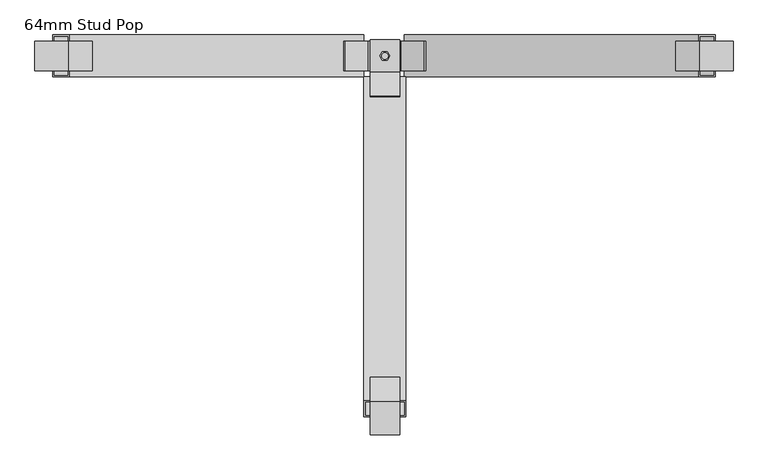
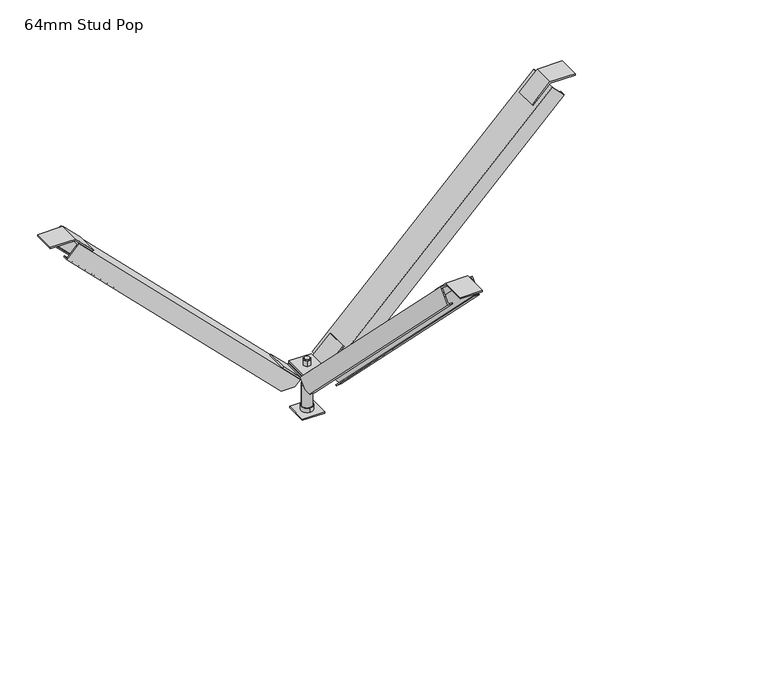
"""IFC4 building model written with IfcOpenShell, lengths in millimetres: beam geometry, Vertibrace 3-way Brace : 64mm Stud Pop."""

from ifc_helpers import new_model, si_unit, frame, origin, origin_with_axes, place, context, project, spatial, polyline, circle_curve, outline, extrude, faceted_brep, source, transform, mapped, element, save
from ifc_brep_helpers import plane_surface, cylinder_surface, advanced_brep


def beam_64mm_stud_pop_63f9fb21(model_context):
    return source(origin(), model_context, "Body", "SolidModel", [
        extrude(outline(polyline([(-527.535654, 597.0013294), (-577.5201232, 597.0013294), (-577.5201232, 600.0), (-526.293564, 600.0), (-490.0709166, 563.7773526), (-492.1912969, 561.6569723), (-527.535654, 597.0013294)])), frame((-22.5, 0.0, 0.0), z_axis=(1.0, 0.0, 0.0), x_axis=(0.0, 1.0, 0.0)), (0.0, 0.0, 1.0), 45.0),
        extrude(outline(polyline([(547.0013294, 480.8434194), (547.0013294, 530.8278886), (550.0, 530.8278886), (550.0, 479.6013294), (513.7773526, 443.378682), (511.6569723, 445.4990623), (547.0013294, 480.8434194)])), frame((0.0, -22.5, 0.0), z_axis=(0.0, 1.0, 0.0), x_axis=(0.0, 0.0, 1.0)), (0.0, 0.0, 1.0), 45.0),
        extrude(outline(polyline([(547.0013294, -483.535654), (511.6569723, -448.1912969), (513.7773526, -446.0709166), (550.0, -482.293564), (550.0, -533.5201232), (547.0013294, -533.5201232), (547.0013294, -483.535654)])), frame((0.0, -22.5, 0.0), z_axis=(0.0, 1.0, 0.0), x_axis=(0.0, 0.0, 1.0)), (0.0, 0.0, 1.0), 45.0),
        extrude(outline(polyline([(-24.9922346, 98.6986706), (24.9922346, 98.6986706), (24.9922346, 95.7), (-26.2343246, 95.7), (-62.456972, 131.9226474), (-60.3365917, 134.0430277), (-24.9922346, 98.6986706)])), frame((-22.5, 0.0, 0.0), z_axis=(1.0, 0.0, 0.0), x_axis=(0.0, 1.0, 0.0)), (0.0, 0.0, 1.0), 45.0),
        extrude(outline(polyline([(95.6986706, 24.9922346), (95.6986706, -24.9922346), (92.7, -24.9922346), (92.7, 26.2343246), (128.9226474, 62.456972), (131.0430277, 60.3365917), (95.6986706, 24.9922346)])), frame((0.0, -22.5, 0.0), z_axis=(0.0, 1.0, 0.0), x_axis=(0.0, 0.0, 1.0)), (0.0, 0.0, 1.0), 45.0),
        extrude(outline(polyline([(92.6986706, -24.9922346), (128.0430277, -60.3365917), (125.9226474, -62.456972), (89.7, -26.2343246), (89.7, 24.9922346), (92.6986706, 24.9922346), (92.6986706, -24.9922346)])), frame((0.0, -22.5, 0.0), z_axis=(0.0, 1.0, 0.0), x_axis=(0.0, 0.0, 1.0)), (0.0, 0.0, 1.0), 45.0),
        extrude(outline(polyline([(22.5, 22.5), (22.5, -22.5), (-22.5, -22.5), (-22.5, 22.5), (22.5, 22.5)])), origin_with_axes(), (0.0, 0.0, 1.0), 3.0),
        advanced_brep(
        [(-5.0, 0.0, 0.0), (5.0, 0.0, 0.0), (-5.0, 0.0, 113.0), (5.0, 0.0, 113.0), (5.0, 0.0, 3.0), (-5.0, 0.0, 3.0), (-5.0, 0.0, 110.4), (5.0, 0.0, 110.4), (-5.0, 0.0, 58.0), (5.0, 0.0, 58.0), (5.0, 0.0, 83.0), (-5.0, 0.0, 83.0), (5.0, 0.0, 98.7), (-5.0, 0.0, 98.7), (-5.0, 0.0, 89.7), (5.0, 0.0, 89.7), (-10.5, 0.0, 58.0), (10.5, 0.0, 58.0), (-10.5, 0.0, 13.0), (10.5, 0.0, 13.0), (0.0, -12.0, 13.0), (0.0, 12.0, 13.0), (3.75, 6.4951905, 110.4), (-3.75, 6.4951905, 110.4), (-7.5, 0.0, 110.4), (-3.75, -6.4951905, 110.4), (3.75, -6.4951905, 110.4), (7.5, 0.0, 110.4), (3.75, 6.4951905, 98.7), (7.5, 0.0, 98.7), (3.75, -6.4951905, 98.7), (-3.75, -6.4951905, 98.7), (-7.5, 0.0, 98.7), (-3.75, 6.4951905, 98.7), (-10.9696551, 0.0, 89.7), (-5.4848276, -9.5, 89.7), (5.4848276, -9.5, 89.7), (10.9696551, 0.0, 89.7), (5.4848276, 9.5, 89.7), (-5.4848276, 9.5, 89.7), (-10.9696551, 0.0, 83.0), (-5.4848276, 9.5, 83.0), (5.4848276, 9.5, 83.0), (10.9696551, 0.0, 83.0), (5.4848276, -9.5, 83.0), (-5.4848276, -9.5, 83.0), (0.0, -12.0, 3.0), (0.0, 12.0, 3.0)],
        [
            (0, 1, circle_curve(frame((0.0, 0.0, 0.0), z_axis=(0.0, 0.0, -1.0), x_axis=(1.0, 0.0, 0.0)), 5.0)),
            (1, 0, circle_curve(frame((0.0, 0.0, 0.0), z_axis=(0.0, 0.0, -1.0), x_axis=(1.0, 0.0, 0.0)), 5.0)),
            (2, 3, circle_curve(frame((0.0, 0.0, 113.0), z_axis=(0.0, 0.0, 1.0), x_axis=(1.0, 0.0, 0.0)), 5.0)),
            (3, 2, circle_curve(frame((0.0, 0.0, 113.0), z_axis=(0.0, 0.0, 1.0), x_axis=(1.0, 0.0, 0.0)), 5.0)),
            (1, 4),
            (4, 5, circle_curve(frame((0.0, 0.0, 3.0), z_axis=(0.0, 0.0, -1.0), x_axis=(1.0, 0.0, 0.0)), 5.0)),
            (5, 0),
            (2, 6),
            (6, 7, circle_curve(frame((0.0, 0.0, 110.4), z_axis=(0.0, 0.0, 1.0), x_axis=(1.0, 0.0, 0.0)), 5.0)),
            (7, 3),
            (8, 9, circle_curve(frame((0.0, 0.0, 58.0), z_axis=(0.0, 0.0, 1.0), x_axis=(1.0, 0.0, 0.0)), 5.0)),
            (9, 10),
            (10, 11, circle_curve(frame((0.0, 0.0, 83.0), z_axis=(0.0, 0.0, -1.0), x_axis=(1.0, 0.0, 0.0)), 5.0)),
            (11, 8),
            (12, 13, circle_curve(frame((0.0, 0.0, 98.7), z_axis=(0.0, 0.0, -1.0), x_axis=(1.0, 0.0, 0.0)), 5.0)),
            (13, 14),
            (14, 15, circle_curve(frame((0.0, 0.0, 89.7), z_axis=(0.0, 0.0, 1.0), x_axis=(1.0, 0.0, 0.0)), 5.0)),
            (15, 12),
            (5, 4, circle_curve(frame((0.0, 0.0, 3.0), z_axis=(0.0, 0.0, -1.0), x_axis=(1.0, 0.0, 0.0)), 5.0)),
            (7, 6, circle_curve(frame((0.0, 0.0, 110.4), z_axis=(0.0, 0.0, 1.0), x_axis=(1.0, 0.0, 0.0)), 5.0)),
            (9, 8, circle_curve(frame((0.0, 0.0, 58.0), z_axis=(0.0, 0.0, 1.0), x_axis=(1.0, 0.0, 0.0)), 5.0)),
            (11, 10, circle_curve(frame((0.0, 0.0, 83.0), z_axis=(0.0, 0.0, -1.0), x_axis=(1.0, 0.0, 0.0)), 5.0)),
            (13, 12, circle_curve(frame((0.0, 0.0, 98.7), z_axis=(0.0, 0.0, -1.0), x_axis=(1.0, 0.0, 0.0)), 5.0)),
            (15, 14, circle_curve(frame((0.0, 0.0, 89.7), z_axis=(0.0, 0.0, 1.0), x_axis=(1.0, 0.0, 0.0)), 5.0)),
            (16, 17, circle_curve(frame((0.0, 0.0, 58.0), z_axis=(0.0, 0.0, 1.0), x_axis=(1.0, 0.0, 0.0)), 10.5)),
            (17, 16, circle_curve(frame((0.0, 0.0, 58.0), z_axis=(0.0, 0.0, 1.0), x_axis=(1.0, 0.0, 0.0)), 10.5)),
            (16, 18),
            (18, 19, circle_curve(frame((0.0, 0.0, 13.0), z_axis=(0.0, 0.0, 1.0), x_axis=(1.0, 0.0, 0.0)), 10.5)),
            (19, 17),
            (19, 18, circle_curve(frame((0.0, 0.0, 13.0), z_axis=(0.0, 0.0, 1.0), x_axis=(1.0, 0.0, 0.0)), 10.5)),
            (20, 21, circle_curve(frame((0.0, 0.0, 13.0), z_axis=(0.0, 0.0, 1.0), x_axis=(0.0, 1.0, 0.0)), 12.0)),
            (21, 20, circle_curve(frame((0.0, 0.0, 13.0), z_axis=(0.0, 0.0, 1.0), x_axis=(0.0, 1.0, 0.0)), 12.0)),
            (22, 23),
            (23, 24),
            (24, 25),
            (25, 26),
            (26, 27),
            (27, 22),
            (28, 29),
            (29, 30),
            (30, 31),
            (31, 32),
            (32, 33),
            (33, 28),
            (22, 28),
            (33, 23),
            (32, 24),
            (31, 25),
            (30, 26),
            (29, 27),
            (34, 35),
            (35, 36),
            (36, 37),
            (37, 38),
            (38, 39),
            (39, 34),
            (40, 41),
            (41, 42),
            (42, 43),
            (43, 44),
            (44, 45),
            (45, 40),
            (34, 40),
            (45, 35),
            (44, 36),
            (43, 37),
            (42, 38),
            (41, 39),
            (46, 47, circle_curve(frame((0.0, 0.0, 3.0), z_axis=(0.0, 0.0, -1.0), x_axis=(0.0, 1.0, 0.0)), 12.0)),
            (47, 46, circle_curve(frame((0.0, 0.0, 3.0), z_axis=(0.0, 0.0, -1.0), x_axis=(0.0, 1.0, 0.0)), 12.0)),
            (47, 21),
            (20, 46),
        ],
        [
            plane_surface(frame((5.0, 0.0, 0.0), z_axis=(0.0, 0.0, -1.0), x_axis=(0.0, -1.0, 0.0))),
            plane_surface(frame((5.0, 0.0, 113.0), z_axis=(0.0, 0.0, 1.0), x_axis=(0.0, 1.0, 0.0))),
            cylinder_surface(origin_with_axes(), 5.0),
            plane_surface(frame((10.5, 0.0, 58.0), z_axis=(0.0, 0.0, 1.0), x_axis=(0.0, 1.0, 0.0))),
            cylinder_surface(frame((0.0, 0.0, 13.0), z_axis=(0.0, 0.0, 1.0), x_axis=(1.0, 0.0, 0.0)), 10.5),
            plane_surface(frame((0.0, 12.0, 13.0), z_axis=(0.0, 0.0, 1.0), x_axis=(-1.0, 0.0, 0.0))),
            plane_surface(frame((3.75, 6.4951905, 110.4), z_axis=(0.0, 0.0, 1.0), x_axis=(-1.0, 0.0, 0.0))),
            plane_surface(frame((3.75, 6.4951905, 98.7), z_axis=(0.0, 0.0, -1.0), x_axis=(1.0, 0.0, 0.0))),
            plane_surface(frame((3.75, 6.4951905, 110.4), z_axis=(0.0, 1.0, 0.0), x_axis=(0.0, 0.0, -1.0))),
            plane_surface(frame((-3.75, 6.4951905, 110.4), z_axis=(-0.866025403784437, 0.5000000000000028, 0.0), x_axis=(0.0, 0.0, -1.0))),
            plane_surface(frame((-7.5, 0.0, 110.4), z_axis=(-0.8660254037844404, -0.4999999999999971, 0.0), x_axis=(0.0, 0.0, -1.0))),
            plane_surface(frame((-3.75, -6.4951905, 110.4), z_axis=(0.0, -1.0, 0.0), x_axis=(0.0, 0.0, -1.0))),
            plane_surface(frame((3.75, -6.4951905, 110.4), z_axis=(0.8660254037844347, -0.500000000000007, 0.0), x_axis=(0.0, 0.0, -1.0))),
            plane_surface(frame((7.5, 0.0, 110.4), z_axis=(0.8660254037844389, 0.49999999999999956, 0.0), x_axis=(0.0, 0.0, -1.0))),
            plane_surface(frame((-10.9696551, 0.0, 89.7), z_axis=(0.0, 0.0, 1.0000000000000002), x_axis=(0.4999999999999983, -0.8660254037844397, 0.0))),
            plane_surface(frame((-10.9696551, 0.0, 83.0), z_axis=(0.0, 0.0, -1.0000000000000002), x_axis=(-0.4999999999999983, 0.8660254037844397, 0.0))),
            plane_surface(frame((-10.9696551, 0.0, 89.7), z_axis=(-0.8660254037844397, -0.4999999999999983, 0.0), x_axis=(0.0, 0.0, -1.0))),
            plane_surface(frame((-5.4848276, -9.5, 89.7), z_axis=(0.0, -1.0, 0.0), x_axis=(0.0, 0.0, -1.0))),
            plane_surface(frame((5.4848276, -9.5, 89.7), z_axis=(0.8660254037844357, -0.5000000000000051, 0.0), x_axis=(0.0, 0.0, -1.0))),
            plane_surface(frame((10.9696551, 0.0, 89.7), z_axis=(0.8660254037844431, 0.4999999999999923, 0.0), x_axis=(0.0, 0.0, -1.0))),
            plane_surface(frame((5.4848276, 9.5, 89.7), z_axis=(0.0, 1.0, 0.0), x_axis=(0.0, 0.0, -1.0))),
            plane_surface(frame((-5.4848276, 9.5, 89.7), z_axis=(-0.8660254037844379, 0.5000000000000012, 0.0), x_axis=(0.0, 0.0, -1.0))),
            plane_surface(frame((0.0, 12.0, 3.0), z_axis=(0.0, 0.0, -1.0), x_axis=(1.0, 0.0, 0.0))),
            cylinder_surface(frame((0.0, 0.0, 3.0), z_axis=(0.0, 0.0, 1.0), x_axis=(0.0, 1.0, 0.0)), 12.0),
        ],
        [
            (0, [[1, 2]]),
            (1, [[3, 4]]),
            (2, [[-2, 5, 6, 7]]),
            (2, [[-3, 8, 9, 10]]),
            (2, [[11, 12, 13, 14]]),
            (2, [[15, 16, 17, 18]]),
            (2, [[-1, -7, 19, -5]]),
            (2, [[-4, -10, 20, -8]]),
            (2, [[21, -14, 22, -12]]),
            (2, [[23, -18, 24, -16]]),
            (3, [[25, 26], [-11, -21]]),
            (4, [[-25, 27, 28, 29]]),
            (4, [[-26, -29, 30, -27]]),
            (5, [[31, 32], [-28, -30]]),
            (6, [[33, 34, 35, 36, 37, 38], [-9, -20]]),
            (7, [[39, 40, 41, 42, 43, 44], [-15, -23]]),
            (8, [[-33, 45, -44, 46]]),
            (9, [[-34, -46, -43, 47]]),
            (10, [[-35, -47, -42, 48]]),
            (11, [[-36, -48, -41, 49]]),
            (12, [[-37, -49, -40, 50]]),
            (13, [[-38, -50, -39, -45]]),
            (14, [[51, 52, 53, 54, 55, 56], [-17, -24]]),
            (15, [[57, 58, 59, 60, 61, 62], [-13, -22]]),
            (16, [[-51, 63, -62, 64]]),
            (17, [[-52, -64, -61, 65]]),
            (18, [[-53, -65, -60, 66]]),
            (19, [[-54, -66, -59, 67]]),
            (20, [[-55, -67, -58, 68]]),
            (21, [[-56, -68, -57, -63]]),
            (22, [[69, 70], [-6, -19]]),
            (23, [[-70, 71, -31, 72]]),
            (23, [[-69, -72, -32, -71]]),
        ],
    ),
        faceted_brep([(30.0, -48.4656754, 85.0), (32.0, -48.4656754, 85.0), (32.0, -65.0317993, 85.0), (22.0, -65.0317993, 85.0), (22.0, -62.2033722, 85.0), (30.0, -62.2033722, 85.0), (-32.0, -48.4656754, 85.0), (-30.0, -48.4656754, 85.0), (-30.0, -62.2033722, 85.0), (-22.0, -62.2033722, 85.0), (-22.0, -65.0317993, 85.0), (-32.0, -65.0317993, 85.0), (30.0, -33.4142136, 100.0514618), (-30.0, -33.4142136, 100.0514618), (-32.0, -32.0, 101.4656754), (32.0, -32.0, 101.4656754), (32.0, -525.5343246, 595.0), (-32.0, -525.5343246, 595.0), (-32.0, -550.283062, 570.2512627), (-22.0, -550.283062, 570.2512627), (-22.0, -548.8688484, 571.6654762), (-30.0, -548.8688484, 571.6654762), (-30.0, -526.9485382, 593.5857864), (30.0, -526.9485382, 593.5857864), (30.0, -548.8688484, 571.6654762), (22.0, -548.8688484, 571.6654762), (22.0, -550.283062, 570.2512627), (32.0, -550.283062, 570.2512627)], [[[0, 1, 2, 3, 4, 5]], [[6, 7, 8, 9, 10, 11]], [[12, 13, 7, 6, 14, 15, 1, 0]], [[16, 17, 18, 19, 20, 21, 22, 23, 24, 25, 26, 27]], [[16, 27, 2, 1, 15]], [[27, 26, 3, 2]], [[26, 25, 4, 3]], [[25, 24, 5, 4]], [[24, 23, 12, 0, 5]], [[13, 12, 23, 22]], [[22, 21, 8, 7, 13]], [[21, 20, 9, 8]], [[20, 19, 10, 9]], [[19, 18, 11, 10]], [[18, 17, 14, 6, 11]], [[15, 14, 17, 16]]]),
        faceted_brep([(39.9343246, 30.0, 85.0), (39.9343246, 32.0, 85.0), (68.0317993, 32.0, 85.0), (68.0317993, 22.0, 85.0), (65.2033722, 22.0, 85.0), (65.2033722, 30.0, 85.0), (39.9343246, -32.0, 85.0), (39.9343246, -30.0, 85.0), (65.2033722, -30.0, 85.0), (65.2033722, -22.0, 85.0), (68.0317993, -22.0, 85.0), (68.0317993, -32.0, 85.0), (30.6485382, 30.0, 94.2857864), (30.6485382, -30.0, 94.2857864), (29.2343246, -32.0, 95.7), (29.2343246, 32.0, 95.7), (478.5343246, 32.0, 545.0), (478.5343246, -32.0, 545.0), (503.283062, -32.0, 520.2512627), (503.283062, -22.0, 520.2512627), (501.8688484, -22.0, 521.6654762), (501.8688484, -30.0, 521.6654762), (479.9485382, -30.0, 543.5857864), (479.9485382, 30.0, 543.5857864), (501.8688484, 30.0, 521.6654762), (501.8688484, 22.0, 521.6654762), (503.283062, 22.0, 520.2512627), (503.283062, 32.0, 520.2512627)], [[[0, 1, 2, 3, 4, 5]], [[6, 7, 8, 9, 10, 11]], [[12, 13, 7, 6, 14, 15, 1, 0]], [[16, 17, 18, 19, 20, 21, 22, 23, 24, 25, 26, 27]], [[16, 27, 2, 1, 15]], [[27, 26, 3, 2]], [[26, 25, 4, 3]], [[25, 24, 5, 4]], [[24, 23, 12, 0, 5]], [[13, 12, 23, 22]], [[22, 21, 8, 7, 13]], [[21, 20, 9, 8]], [[20, 19, 10, 9]], [[19, 18, 11, 10]], [[18, 17, 14, 6, 11]], [[15, 14, 17, 16]]]),
        faceted_brep([(-33.9485382, -30.0, 94.5857864), (-33.9485382, 30.0, 94.5857864), (-43.5343246, 30.0, 85.0), (-43.5343246, 32.0, 85.0), (-32.5343246, 32.0, 96.0), (-32.5343246, -32.0, 96.0), (-43.5343246, -32.0, 85.0), (-43.5343246, -30.0, 85.0), (-481.5343246, -32.0, 545.0), (-481.5343246, 32.0, 545.0), (-506.283062, 32.0, 520.2512627), (-506.283062, 22.0, 520.2512627), (-504.8688484, 22.0, 521.6654762), (-504.8688484, 30.0, 521.6654762), (-482.9485382, 30.0, 543.5857864), (-482.9485382, -30.0, 543.5857864), (-504.8688484, -30.0, 521.6654762), (-504.8688484, -22.0, 521.6654762), (-506.283062, -22.0, 520.2512627), (-506.283062, -32.0, 520.2512627), (-71.0317993, -32.0, 85.0), (-71.0317993, -22.0, 85.0), (-71.0317993, 32.0, 85.0), (-68.2033722, 30.0, 85.0), (-68.2033722, 22.0, 85.0), (-71.0317993, 22.0, 85.0), (-68.2033722, -22.0, 85.0), (-68.2033722, -30.0, 85.0)], [[[0, 1, 2, 3, 4, 5, 6, 7]], [[8, 9, 10, 11, 12, 13, 14, 15, 16, 17, 18, 19]], [[8, 19, 20, 6, 5]], [[19, 18, 21, 20]], [[10, 9, 4, 3, 22]], [[5, 4, 9, 8]], [[3, 2, 23, 24, 25, 22]], [[7, 6, 20, 21, 26, 27]], [[18, 17, 26, 21]], [[17, 16, 27, 26]], [[16, 15, 0, 7, 27]], [[1, 0, 15, 14]], [[14, 13, 23, 2, 1]], [[13, 12, 24, 23]], [[12, 11, 25, 24]], [[11, 10, 22, 25]]]),
    ])


if __name__ == "__main__":
    model = new_model("IFC4")
    model_context = context("Model", 3, world=origin())
    ifc_project = project(units=[si_unit("LENGTHUNIT", "METRE", prefix="MILLI")], contexts=[model_context])
    site = spatial("IfcSite", under=ifc_project)
    building = spatial("IfcBuilding", under=site)
    placement = place(None, origin())
    beam_64mm_stud_pop_shape = beam_64mm_stud_pop_63f9fb21(model_context)
    element("IfcBeam", 1, ObjectType="Vertibrace 3-way Brace : 64mm Stud Pop", at=placement, inside=building, context=model_context, shape_type="MappedRepresentation", body=[
        mapped(beam_64mm_stud_pop_shape, transform((0.0, 0.0, 0.0), x_axis=(1.0, 0.0, 0.0), y_axis=(0.0, 1.0, 0.0), z_axis=(0.0, 0.0, 1.0))),
    ])
    save(model, "model.ifc")
